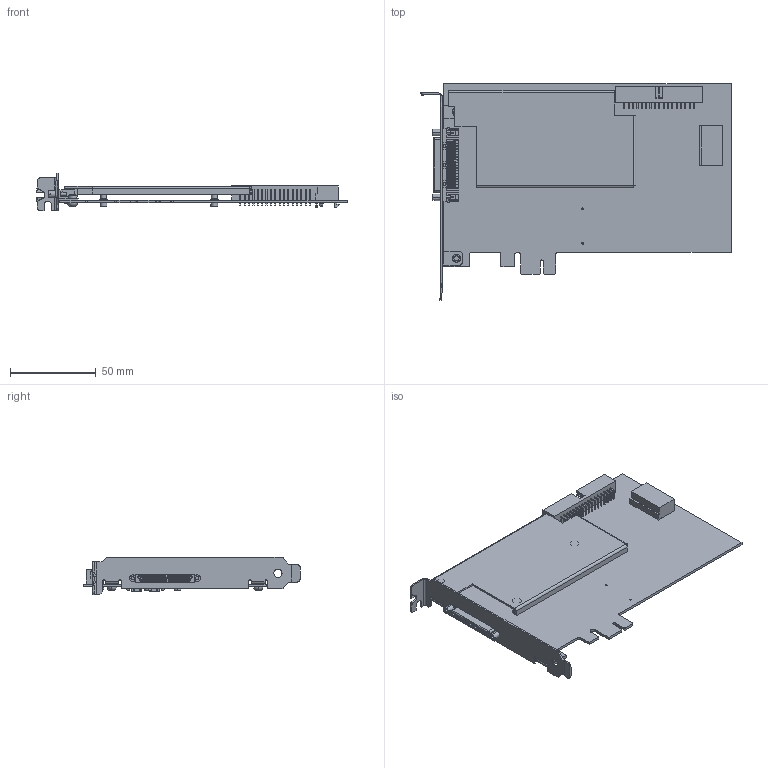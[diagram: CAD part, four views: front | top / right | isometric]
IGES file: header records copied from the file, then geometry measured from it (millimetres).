
Start section:  PTC IGES file: cu_pcie_x-series_1vhdci.igs
Global section: file name: cu_pcie_x-series_1vhdci.igs; native system: Pro/ENGINEER by Parametric Technology Corporation; preprocessor: 2010230; author: dkendric; organization: Unknown; date: 20110418.155335; units: inch
Bounding box: 180.92 x 126.32 x 21.59 mm (x, y, z)
Surface area: 59327.4 mm2 (no closed solid volume)
Topology: 0 solids, 0 shells, 2643 faces, 14052 edges, 14044 vertices
Faces by surface type: bspline 2135, revolution 508
